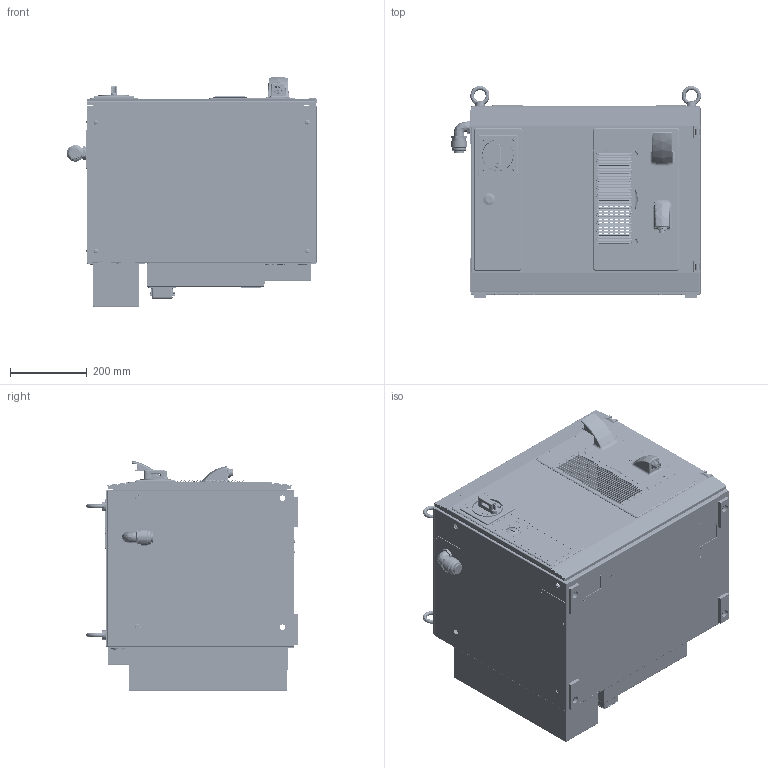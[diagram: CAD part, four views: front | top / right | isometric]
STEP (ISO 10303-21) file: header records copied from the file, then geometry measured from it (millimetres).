
FILE_DESCRIPTION (( 'STEP AP214' ), '1' );
FILE_NAME ('YRC1000 Controller.STEP', '2019-01-29T20:47:05', ( '' ), ( '' ), 'SwSTEP 2.0', 'SolidWorks 2017', '' );
FILE_SCHEMA (( 'AUTOMOTIVE_DESIGN' ));
Length unit declared in the file: millimetre
Products named in the file (37): 212_9059_A; FGA26E-20B_SPR215-B; 150-026-085; RC16Y_S_FAN_UNIT_VER01_ASM; CP-30-HP-6; CM09Y-R25S; 019; 012; 020; 023; 024; F-05SRUL-JUSI; F-5SRUL; KN01AL; 212_9059_B; W12_2X22X1T; 017-5; YRC1000 Controller; 004; 016; 003; C-30-SG-28A-EP-UL; 002; I_BOLT-M12-JISB1168; 018; 09225VA-24P-CA-02; 017-1; 011; 010; 014; 015; 013; 001_ASM; 007; 006; 021; NJ4024-NNN
Assembly tree (61 placements, depth 3):
  YRC1000 Controller
    001_ASM
      002
      003
      004
      006  x4
    007
    010
    011
    012
    CM09Y-R25S
    150-026-085
    212_9059_A  x2
    212_9059_B  x2
    F-05SRUL-JUSI
    F-5SRUL
    013
    014
    015
    016
    017-1  x7
    018  x2
    017-5
    019
    020  x2
    021  x2
    023
    024  x2
    CP-30-HP-6  x2
    KN01AL
    RC16Y_S_FAN_UNIT_VER01_ASM
      09225VA-24P-CA-02  x4
    FGA26E-20B_SPR215-B
    C-30-SG-28A-EP-UL
    W12_2X22X1T  x4
    I_BOLT-M12-JISB1168  x4
    NJ4024-NNN
Bounding box: 651.15 x 551 x 598.97 mm (x, y, z)
Volume: 4282781.7 mm3; surface area: 4581545.1 mm2
Topology: 72 solids, 72 shells, 10946 faces, 28817 edges, 18249 vertices
Faces by surface type: plane 4606, cylinder 3210, bspline 1888, cone 1213, torus 29
Entity records: 399324 total; most frequent: CARTESIAN_POINT 171471, ORIENTED_EDGE 52502, DIRECTION 39466, EDGE_CURVE 26251, VERTEX_POINT 16596, AXIS2_PLACEMENT_3D 14189, EDGE_LOOP 11097, LINE 11088
